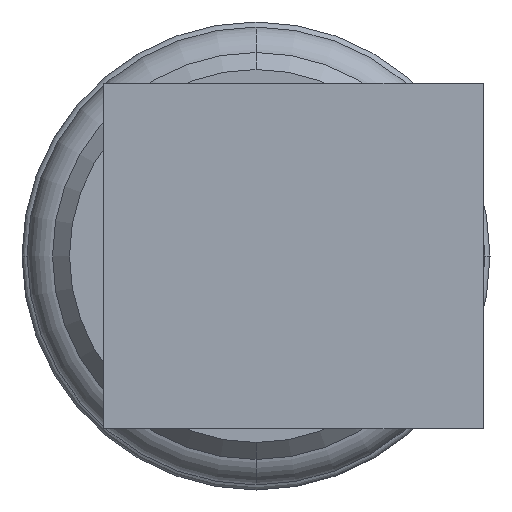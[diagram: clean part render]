
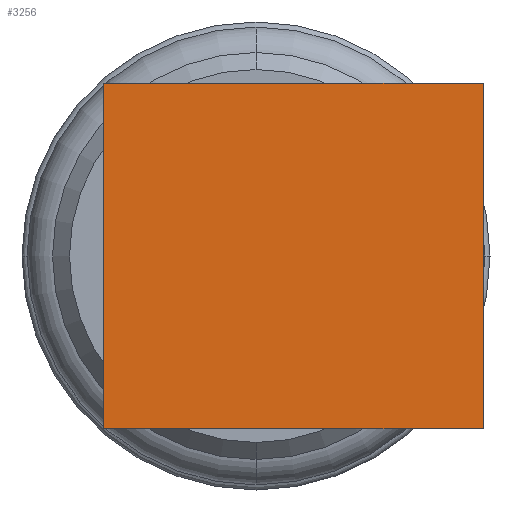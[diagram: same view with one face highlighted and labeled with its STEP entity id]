
A CAD part, left-side view. The second image highlights one B-rep face of the part: STEP entity #3256.
In plain terms, the highlighted planar face has unit normal (-1, 0, 0).
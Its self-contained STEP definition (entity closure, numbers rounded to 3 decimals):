
#70 = CARTESIAN_POINT ( 'NONE',  ( -175., -6.7, -5.1 ) ) ;
#218 = VECTOR ( 'NONE', #1292, 1000. ) ;
#271 = LINE ( 'NONE', #2786, #534 ) ;
#520 = FACE_OUTER_BOUND ( 'NONE', #2544, .T. ) ;
#534 = VECTOR ( 'NONE', #1332, 1000. ) ;
#694 = ORIENTED_EDGE ( 'NONE', *, *, #3098, .F. ) ;
#762 = CARTESIAN_POINT ( 'NONE',  ( -175., 4.5, -5.1 ) ) ;
#950 = EDGE_CURVE ( 'NONE', #2355, #1175, #271, .T. ) ;
#1175 = VERTEX_POINT ( 'NONE', #2297 ) ;
#1262 = ORIENTED_EDGE ( 'NONE', *, *, #1726, .T. ) ;
#1278 = VECTOR ( 'NONE', #2451, 1000. ) ;
#1292 = DIRECTION ( 'NONE',  ( 0., 1., 0. ) ) ;
#1332 = DIRECTION ( 'NONE',  ( 0., 1., 0. ) ) ;
#1535 = LINE ( 'NONE', #2186, #1278 ) ;
#1605 = DIRECTION ( 'NONE',  ( 0., 0., 1. ) ) ;
#1664 = DIRECTION ( 'NONE',  ( 0., 0., 1. ) ) ;
#1710 = AXIS2_PLACEMENT_3D ( 'NONE', #3356, #3067, #1664 ) ;
#1726 = EDGE_CURVE ( 'NONE', #2307, #2355, #1535, .T. ) ;
#1948 = LINE ( 'NONE', #2139, #3449 ) ;
#2139 = CARTESIAN_POINT ( 'NONE',  ( -175., 4.5, -15. ) ) ;
#2186 = CARTESIAN_POINT ( 'NONE',  ( -175., -6.7, -15. ) ) ;
#2297 = CARTESIAN_POINT ( 'NONE',  ( -175., 4.5, 5.1 ) ) ;
#2307 = VERTEX_POINT ( 'NONE', #70 ) ;
#2355 = VERTEX_POINT ( 'NONE', #2863 ) ;
#2451 = DIRECTION ( 'NONE',  ( 0., 0., 1. ) ) ;
#2544 = EDGE_LOOP ( 'NONE', ( #694, #1262, #3351, #3350 ) ) ;
#2557 = VERTEX_POINT ( 'NONE', #762 ) ;
#2786 = CARTESIAN_POINT ( 'NONE',  ( -175., -12.5, 5.1 ) ) ;
#2806 = PLANE ( 'NONE',  #1710 ) ;
#2863 = CARTESIAN_POINT ( 'NONE',  ( -175., -6.7, 5.1 ) ) ;
#3067 = DIRECTION ( 'NONE',  ( -1., 0., 0. ) ) ;
#3095 = LINE ( 'NONE', #3569, #218 ) ;
#3098 = EDGE_CURVE ( 'NONE', #2307, #2557, #3095, .T. ) ;
#3103 = EDGE_CURVE ( 'NONE', #2557, #1175, #1948, .T. ) ;
#3256 = ADVANCED_FACE ( 'NONE', ( #520 ), #2806, .T. ) ;
#3350 = ORIENTED_EDGE ( 'NONE', *, *, #3103, .F. ) ;
#3351 = ORIENTED_EDGE ( 'NONE', *, *, #950, .T. ) ;
#3356 = CARTESIAN_POINT ( 'NONE',  ( -175., -166.664, -15. ) ) ;
#3449 = VECTOR ( 'NONE', #1605, 1000. ) ;
#3569 = CARTESIAN_POINT ( 'NONE',  ( -175., -12.5, -5.1 ) ) ;
